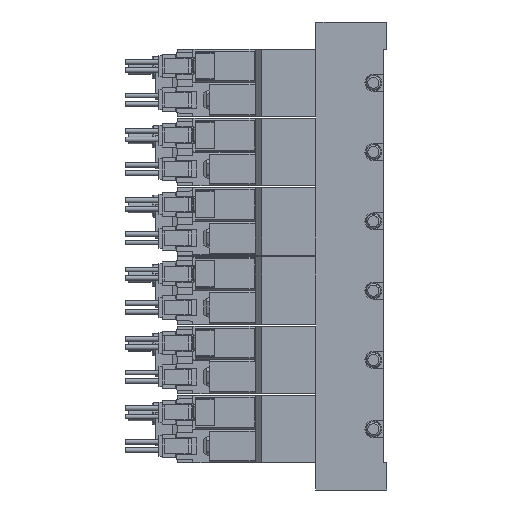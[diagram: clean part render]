
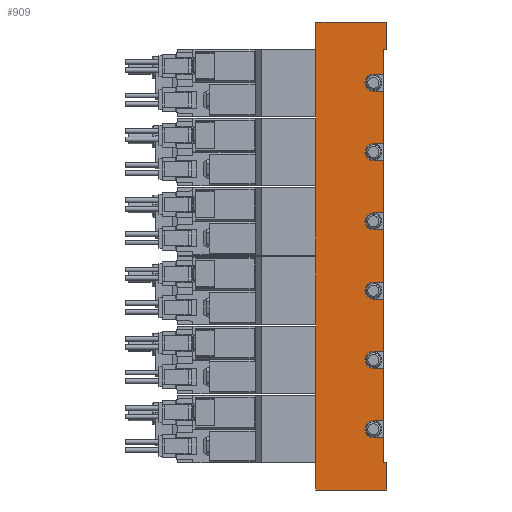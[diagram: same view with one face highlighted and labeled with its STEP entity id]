
A CAD part, left-side view. The second image highlights one B-rep face of the part: STEP entity #909.
In plain terms, the highlighted planar face has unit normal (-1, 0, 0) as drawn and (1, 0, 0) by its records, which use the part's own axes.
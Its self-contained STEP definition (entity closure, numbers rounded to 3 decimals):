
#909=ADVANCED_FACE('',(#1894),#1895,.F.);
#1894=FACE_OUTER_BOUND('',#3089,.T.);
#1895=PLANE('',#3090);
#3089=EDGE_LOOP('',(#6691,#6692,#6693,#6694,#6695,#6696,#6697,#6698,#6699,#6700,#6701,#6702,#6703,#6704,#6705,#6706,#6707,#6708,#6709,#6710,#6711,#6712,#6713,#6714,#6715,#6716,#6717,#6718,#6719,#6720,#6721,#6722));
#3090=AXIS2_PLACEMENT_3D('',#6723,#6724,#6725);
#6691=ORIENTED_EDGE('',*,*,#8496,.T.);
#6692=ORIENTED_EDGE('',*,*,#8497,.T.);
#6693=ORIENTED_EDGE('',*,*,#8498,.F.);
#6694=ORIENTED_EDGE('',*,*,#8499,.F.);
#6695=ORIENTED_EDGE('',*,*,#8500,.T.);
#6696=ORIENTED_EDGE('',*,*,#8501,.T.);
#6697=ORIENTED_EDGE('',*,*,#8502,.T.);
#6698=ORIENTED_EDGE('',*,*,#8503,.F.);
#6699=ORIENTED_EDGE('',*,*,#8504,.F.);
#6700=ORIENTED_EDGE('',*,*,#8505,.F.);
#6701=ORIENTED_EDGE('',*,*,#8506,.T.);
#6702=ORIENTED_EDGE('',*,*,#8507,.F.);
#6703=ORIENTED_EDGE('',*,*,#8508,.F.);
#6704=ORIENTED_EDGE('',*,*,#8491,.F.);
#6705=ORIENTED_EDGE('',*,*,#8509,.T.);
#6706=ORIENTED_EDGE('',*,*,#8472,.F.);
#6707=ORIENTED_EDGE('',*,*,#8510,.F.);
#6708=ORIENTED_EDGE('',*,*,#8511,.F.);
#6709=ORIENTED_EDGE('',*,*,#8512,.T.);
#6710=ORIENTED_EDGE('',*,*,#8513,.F.);
#6711=ORIENTED_EDGE('',*,*,#8514,.F.);
#6712=ORIENTED_EDGE('',*,*,#8515,.F.);
#6713=ORIENTED_EDGE('',*,*,#8516,.T.);
#6714=ORIENTED_EDGE('',*,*,#8517,.F.);
#6715=ORIENTED_EDGE('',*,*,#8518,.F.);
#6716=ORIENTED_EDGE('',*,*,#8519,.F.);
#6717=ORIENTED_EDGE('',*,*,#8520,.T.);
#6718=ORIENTED_EDGE('',*,*,#8521,.F.);
#6719=ORIENTED_EDGE('',*,*,#8522,.F.);
#6720=ORIENTED_EDGE('',*,*,#8523,.F.);
#6721=ORIENTED_EDGE('',*,*,#8524,.T.);
#6722=ORIENTED_EDGE('',*,*,#8525,.T.);
#6723=CARTESIAN_POINT('',(17.5,1.0,69.25));
#6724=DIRECTION('',(-1.0,0.0,0.0));
#6725=DIRECTION('',(0.0,0.0,1.0));
#8472=EDGE_CURVE('',#10405,#10406,#10407,.T.);
#8491=EDGE_CURVE('',#10443,#10444,#10445,.T.);
#8496=EDGE_CURVE('',#10453,#10454,#10455,.T.);
#8497=EDGE_CURVE('',#10454,#10456,#10457,.T.);
#8498=EDGE_CURVE('',#10458,#10456,#10459,.T.);
#8499=EDGE_CURVE('',#10460,#10458,#10461,.T.);
#8500=EDGE_CURVE('',#10460,#10462,#10463,.T.);
#8501=EDGE_CURVE('',#10462,#10464,#10465,.T.);
#8502=EDGE_CURVE('',#10464,#10466,#10467,.T.);
#8503=EDGE_CURVE('',#10468,#10466,#10469,.T.);
#8504=EDGE_CURVE('',#10470,#10468,#10471,.T.);
#8505=EDGE_CURVE('',#10472,#10470,#10473,.T.);
#8506=EDGE_CURVE('',#10472,#10474,#10475,.T.);
#8507=EDGE_CURVE('',#10476,#10474,#10477,.T.);
#8508=EDGE_CURVE('',#10444,#10476,#10478,.T.);
#8509=EDGE_CURVE('',#10443,#10406,#10479,.T.);
#8510=EDGE_CURVE('',#10480,#10405,#10481,.T.);
#8511=EDGE_CURVE('',#10482,#10480,#10483,.T.);
#8512=EDGE_CURVE('',#10482,#10484,#10485,.T.);
#8513=EDGE_CURVE('',#10486,#10484,#10487,.T.);
#8514=EDGE_CURVE('',#10488,#10486,#10489,.T.);
#8515=EDGE_CURVE('',#10490,#10488,#10491,.T.);
#8516=EDGE_CURVE('',#10490,#10492,#10493,.T.);
#8517=EDGE_CURVE('',#10494,#10492,#10495,.T.);
#8518=EDGE_CURVE('',#10496,#10494,#10497,.T.);
#8519=EDGE_CURVE('',#10498,#10496,#10499,.T.);
#8520=EDGE_CURVE('',#10498,#10500,#10501,.T.);
#8521=EDGE_CURVE('',#10502,#10500,#10503,.T.);
#8522=EDGE_CURVE('',#10504,#10502,#10505,.T.);
#8523=EDGE_CURVE('',#10506,#10504,#10507,.T.);
#8524=EDGE_CURVE('',#10506,#10508,#10509,.T.);
#8525=EDGE_CURVE('',#10508,#10453,#10510,.T.);
#10405=VERTEX_POINT('',#13587);
#10406=VERTEX_POINT('',#13588);
#10407=LINE('',#13589,#13590);
#10443=VERTEX_POINT('',#13636);
#10444=VERTEX_POINT('',#13637);
#10445=LINE('',#13638,#13639);
#10453=VERTEX_POINT('',#13651);
#10454=VERTEX_POINT('',#13652);
#10455=LINE('',#13653,#13654);
#10456=VERTEX_POINT('',#13655);
#10457=LINE('',#13656,#13657);
#10458=VERTEX_POINT('',#13658);
#10459=LINE('',#13659,#13660);
#10460=VERTEX_POINT('',#13661);
#10461=LINE('',#13662,#13663);
#10462=VERTEX_POINT('',#13664);
#10463=LINE('',#13665,#13666);
#10464=VERTEX_POINT('',#13667);
#10465=LINE('',#13668,#13669);
#10466=VERTEX_POINT('',#13670);
#10467=LINE('',#13671,#13672);
#10468=VERTEX_POINT('',#13673);
#10469=LINE('',#13674,#13675);
#10470=VERTEX_POINT('',#13676);
#10471=CIRCLE('',#13677,2.5);
#10472=VERTEX_POINT('',#13678);
#10473=LINE('',#13679,#13680);
#10474=VERTEX_POINT('',#13681);
#10475=LINE('',#13682,#13683);
#10476=VERTEX_POINT('',#13684);
#10477=LINE('',#13685,#13686);
#10478=CIRCLE('',#13687,2.5);
#10479=LINE('',#13688,#13689);
#10480=VERTEX_POINT('',#13690);
#10481=CIRCLE('',#13691,2.5);
#10482=VERTEX_POINT('',#13692);
#10483=LINE('',#13693,#13694);
#10484=VERTEX_POINT('',#13695);
#10485=LINE('',#13696,#13697);
#10486=VERTEX_POINT('',#13698);
#10487=LINE('',#13699,#13700);
#10488=VERTEX_POINT('',#13701);
#10489=CIRCLE('',#13702,2.5);
#10490=VERTEX_POINT('',#13703);
#10491=LINE('',#13704,#13705);
#10492=VERTEX_POINT('',#13706);
#10493=LINE('',#13707,#13708);
#10494=VERTEX_POINT('',#13709);
#10495=LINE('',#13710,#13711);
#10496=VERTEX_POINT('',#13712);
#10497=CIRCLE('',#13713,2.5);
#10498=VERTEX_POINT('',#13714);
#10499=LINE('',#13715,#13716);
#10500=VERTEX_POINT('',#13717);
#10501=LINE('',#13718,#13719);
#10502=VERTEX_POINT('',#13720);
#10503=LINE('',#13721,#13722);
#10504=VERTEX_POINT('',#13723);
#10505=CIRCLE('',#13724,2.5);
#10506=VERTEX_POINT('',#13725);
#10507=LINE('',#13726,#13727);
#10508=VERTEX_POINT('',#13728);
#10509=LINE('',#13729,#13730);
#10510=LINE('',#13731,#13732);
#13587=CARTESIAN_POINT('',(17.5,4.0,12.75));
#13588=CARTESIAN_POINT('',(17.5,1.0,12.75));
#13589=CARTESIAN_POINT('',(17.5,1.0,12.75));
#13590=VECTOR('',#15552,1.0);
#13636=CARTESIAN_POINT('',(17.5,1.0,28.25));
#13637=CARTESIAN_POINT('',(17.5,4.0,28.25));
#13638=CARTESIAN_POINT('',(17.5,1.0,28.25));
#13639=VECTOR('',#15587,1.0);
#13651=CARTESIAN_POINT('',(17.5,0.0,-61.25));
#13652=CARTESIAN_POINT('',(17.5,0.0,-69.25));
#13653=CARTESIAN_POINT('',(17.5,0.0,-61.25));
#13654=VECTOR('',#15592,1.0);
#13655=CARTESIAN_POINT('',(17.5,21.0,-69.25));
#13656=CARTESIAN_POINT('',(17.5,1.0,-69.25));
#13657=VECTOR('',#15593,1.0);
#13658=CARTESIAN_POINT('',(17.5,21.0,69.25));
#13659=CARTESIAN_POINT('',(17.5,21.0,69.25));
#13660=VECTOR('',#15594,1.0);
#13661=CARTESIAN_POINT('',(17.5,0.0,69.25));
#13662=CARTESIAN_POINT('',(17.5,1.0,69.25));
#13663=VECTOR('',#15595,1.0);
#13664=CARTESIAN_POINT('',(17.5,0.0,61.25));
#13665=CARTESIAN_POINT('',(17.5,0.0,69.25));
#13666=VECTOR('',#15596,1.0);
#13667=CARTESIAN_POINT('',(17.5,1.0,61.25));
#13668=CARTESIAN_POINT('',(17.5,0.0,61.25));
#13669=VECTOR('',#15597,1.0);
#13670=CARTESIAN_POINT('',(17.5,1.0,53.75));
#13671=CARTESIAN_POINT('',(17.5,1.0,69.25));
#13672=VECTOR('',#15598,1.0);
#13673=CARTESIAN_POINT('',(17.5,4.0,53.75));
#13674=CARTESIAN_POINT('',(17.5,1.0,53.75));
#13675=VECTOR('',#15599,1.0);
#13676=CARTESIAN_POINT('',(17.5,4.0,48.75));
#13677=AXIS2_PLACEMENT_3D('',#15600,#15601,#15602);
#13678=CARTESIAN_POINT('',(17.5,1.0,48.75));
#13679=CARTESIAN_POINT('',(17.5,1.0,48.75));
#13680=VECTOR('',#15603,1.0);
#13681=CARTESIAN_POINT('',(17.5,1.0,33.25));
#13682=CARTESIAN_POINT('',(17.5,1.0,69.25));
#13683=VECTOR('',#15604,1.0);
#13684=CARTESIAN_POINT('',(17.5,4.0,33.25));
#13685=CARTESIAN_POINT('',(17.5,1.0,33.25));
#13686=VECTOR('',#15605,1.0);
#13687=AXIS2_PLACEMENT_3D('',#15606,#15607,#15608);
#13688=CARTESIAN_POINT('',(17.5,1.0,69.25));
#13689=VECTOR('',#15609,1.0);
#13690=CARTESIAN_POINT('',(17.5,4.0,7.75));
#13691=AXIS2_PLACEMENT_3D('',#15610,#15611,#15612);
#13692=CARTESIAN_POINT('',(17.5,1.0,7.75));
#13693=CARTESIAN_POINT('',(17.5,1.0,7.75));
#13694=VECTOR('',#15613,1.0);
#13695=CARTESIAN_POINT('',(17.5,1.0,-7.75));
#13696=CARTESIAN_POINT('',(17.5,1.0,69.25));
#13697=VECTOR('',#15614,1.0);
#13698=CARTESIAN_POINT('',(17.5,4.0,-7.75));
#13699=CARTESIAN_POINT('',(17.5,1.0,-7.75));
#13700=VECTOR('',#15615,1.0);
#13701=CARTESIAN_POINT('',(17.5,4.0,-12.75));
#13702=AXIS2_PLACEMENT_3D('',#15616,#15617,#15618);
#13703=CARTESIAN_POINT('',(17.5,1.0,-12.75));
#13704=CARTESIAN_POINT('',(17.5,1.0,-12.75));
#13705=VECTOR('',#15619,1.0);
#13706=CARTESIAN_POINT('',(17.5,1.0,-28.25));
#13707=CARTESIAN_POINT('',(17.5,1.0,69.25));
#13708=VECTOR('',#15620,1.0);
#13709=CARTESIAN_POINT('',(17.5,4.0,-28.25));
#13710=CARTESIAN_POINT('',(17.5,1.0,-28.25));
#13711=VECTOR('',#15621,1.0);
#13712=CARTESIAN_POINT('',(17.5,4.0,-33.25));
#13713=AXIS2_PLACEMENT_3D('',#15622,#15623,#15624);
#13714=CARTESIAN_POINT('',(17.5,1.0,-33.25));
#13715=CARTESIAN_POINT('',(17.5,1.0,-33.25));
#13716=VECTOR('',#15625,1.0);
#13717=CARTESIAN_POINT('',(17.5,1.0,-48.75));
#13718=CARTESIAN_POINT('',(17.5,1.0,69.25));
#13719=VECTOR('',#15626,1.0);
#13720=CARTESIAN_POINT('',(17.5,4.0,-48.75));
#13721=CARTESIAN_POINT('',(17.5,1.0,-48.75));
#13722=VECTOR('',#15627,1.0);
#13723=CARTESIAN_POINT('',(17.5,4.0,-53.75));
#13724=AXIS2_PLACEMENT_3D('',#15628,#15629,#15630);
#13725=CARTESIAN_POINT('',(17.5,1.0,-53.75));
#13726=CARTESIAN_POINT('',(17.5,1.0,-53.75));
#13727=VECTOR('',#15631,1.0);
#13728=CARTESIAN_POINT('',(17.5,1.0,-61.25));
#13729=CARTESIAN_POINT('',(17.5,1.0,69.25));
#13730=VECTOR('',#15632,1.0);
#13731=CARTESIAN_POINT('',(17.5,4.0,-61.25));
#13732=VECTOR('',#15633,1.0);
#15552=DIRECTION('',(0.0,-1.0,0.0));
#15587=DIRECTION('',(0.0,1.0,0.0));
#15592=DIRECTION('',(0.0,0.0,-1.0));
#15593=DIRECTION('',(0.0,1.0,0.0));
#15594=DIRECTION('',(0.0,0.0,-1.0));
#15595=DIRECTION('',(0.0,1.0,0.0));
#15596=DIRECTION('',(0.0,0.0,-1.0));
#15597=DIRECTION('',(0.0,1.0,0.0));
#15598=DIRECTION('',(0.0,0.0,-1.0));
#15599=DIRECTION('',(0.0,-1.0,0.0));
#15600=CARTESIAN_POINT('',(17.5,4.0,51.25));
#15601=DIRECTION('',(1.0,0.0,-0.0));
#15602=DIRECTION('',(0.0,0.0,1.0));
#15603=DIRECTION('',(0.0,1.0,0.0));
#15604=DIRECTION('',(0.0,0.0,-1.0));
#15605=DIRECTION('',(0.0,-1.0,0.0));
#15606=CARTESIAN_POINT('',(17.5,4.0,30.75));
#15607=DIRECTION('',(1.0,0.0,-0.0));
#15608=DIRECTION('',(0.0,0.0,1.0));
#15609=DIRECTION('',(0.0,0.0,-1.0));
#15610=CARTESIAN_POINT('',(17.5,4.0,10.25));
#15611=DIRECTION('',(1.0,0.0,-0.0));
#15612=DIRECTION('',(0.0,0.0,1.0));
#15613=DIRECTION('',(0.0,1.0,0.0));
#15614=DIRECTION('',(0.0,0.0,-1.0));
#15615=DIRECTION('',(0.0,-1.0,0.0));
#15616=CARTESIAN_POINT('',(17.5,4.0,-10.25));
#15617=DIRECTION('',(1.0,0.0,-0.0));
#15618=DIRECTION('',(0.0,0.0,1.0));
#15619=DIRECTION('',(0.0,1.0,0.0));
#15620=DIRECTION('',(0.0,0.0,-1.0));
#15621=DIRECTION('',(0.0,-1.0,0.0));
#15622=CARTESIAN_POINT('',(17.5,4.0,-30.75));
#15623=DIRECTION('',(1.0,0.0,-0.0));
#15624=DIRECTION('',(0.0,0.0,1.0));
#15625=DIRECTION('',(0.0,1.0,0.0));
#15626=DIRECTION('',(0.0,0.0,-1.0));
#15627=DIRECTION('',(0.0,-1.0,0.0));
#15628=CARTESIAN_POINT('',(17.5,4.0,-51.25));
#15629=DIRECTION('',(1.0,0.0,-0.0));
#15630=DIRECTION('',(0.0,0.0,1.0));
#15631=DIRECTION('',(0.0,1.0,0.0));
#15632=DIRECTION('',(0.0,0.0,-1.0));
#15633=DIRECTION('',(0.0,-1.0,0.0));
